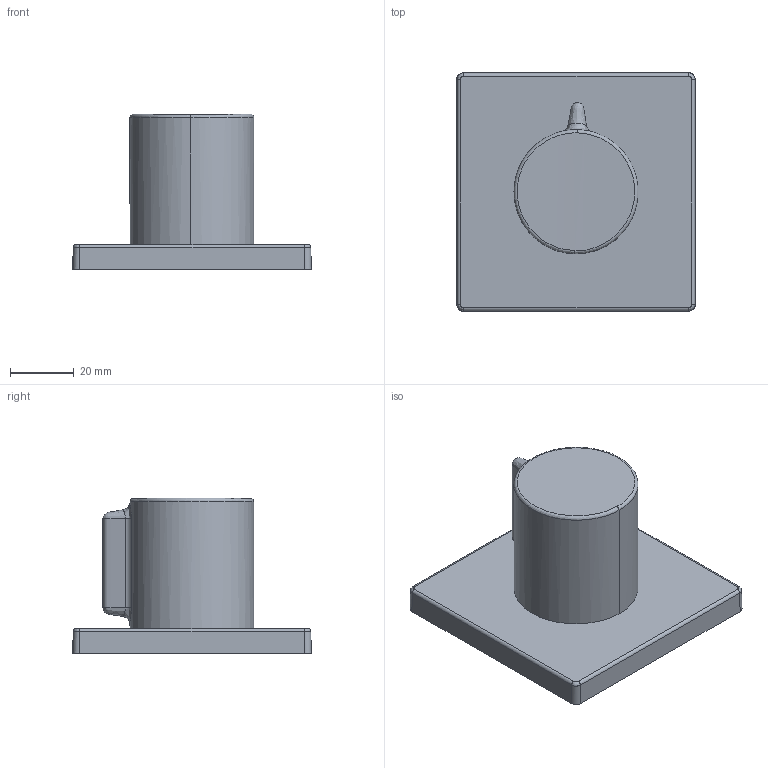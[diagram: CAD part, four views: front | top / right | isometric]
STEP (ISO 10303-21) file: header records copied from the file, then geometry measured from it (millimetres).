
FILE_DESCRIPTION (( 'STEP AP203' ), '1' );
FILE_NAME ('290047(2026).STEP', '2025-10-16T12:37:54', ( '' ), ( '' ), 'SwSTEP 2.0', 'SolidWorks 2024', '' );
FILE_SCHEMA (( 'CONFIG_CONTROL_DESIGN' ));
Length unit declared in the file: millimetre
Products named in the file (1): 290047(2026)
Bounding box: 75 x 75 x 49 mm (x, y, z)
Volume: 94721.1 mm3; surface area: 18840.9 mm2
Topology: 1 solids, 1 shells, 31 faces, 72 edges, 42 vertices
Faces by surface type: cylinder 13, bspline 12, plane 6
Entity records: 2724 total; most frequent: CARTESIAN_POINT 2057, ORIENTED_EDGE 140, DIRECTION 96, EDGE_CURVE 70, VERTEX_POINT 42, AXIS2_PLACEMENT_3D 34, EDGE_LOOP 32, FACE_OUTER_BOUND 31
